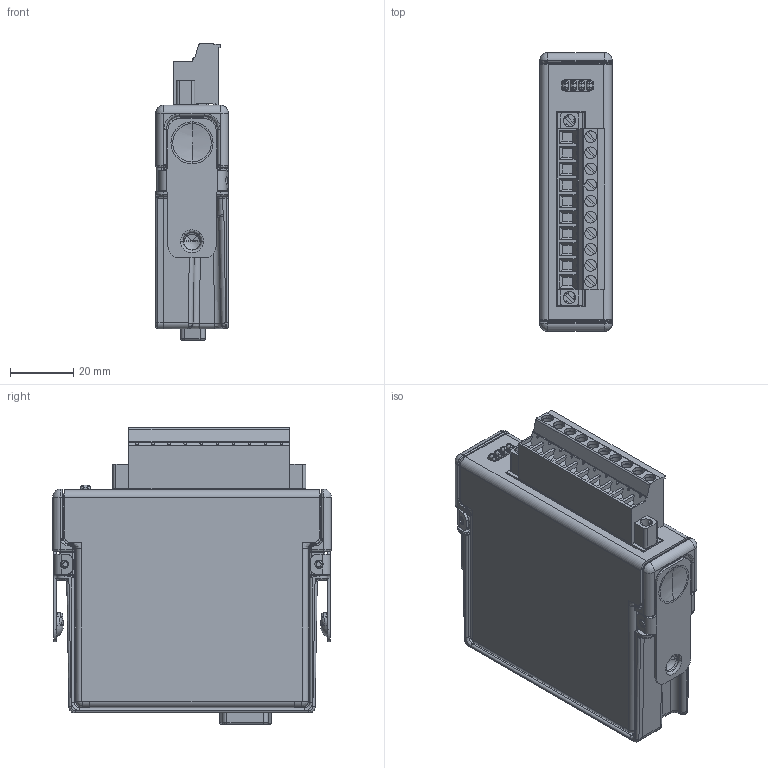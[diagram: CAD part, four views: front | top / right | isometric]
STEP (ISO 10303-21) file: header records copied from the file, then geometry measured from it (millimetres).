
FILE_DESCRIPTION((''),'2;1');
FILE_NAME('CU_NI-9482_SCREW_TERM','2015-11-09T',('dkendric'),(''),'PRO/ENGINEER BY PARAMETRIC TECHNOLOGY CORPORATION, 2015280','PRO/ENGINEER BY PARAMETRIC TECHNOLOGY CORPORATION, 2015280','');
FILE_SCHEMA(('CONFIG_CONTROL_DESIGN'));
Products named in the file (1): CU_NI-9482_SCREW_TERM
Bounding box: 22.86 x 88.11 x 93.62 mm (x, y, z)
Volume: 55509.5 mm3; surface area: 54587.6 mm2
Topology: 14 solids, 14 shells, 2739 faces, 6492 edges, 3866 vertices
Faces by surface type: plane 1431, cylinder 666, bspline 381, sphere 107, cone 82, torus 66, extrusion 6
Entity records: 99341 total; most frequent: CARTESIAN_POINT 39222, ORIENTED_EDGE 12840, DIRECTION 11674, EDGE_CURVE 6420, AXIS2_PLACEMENT_3D 3972, VERTEX_POINT 3904, VECTOR 3730, LINE 3724
